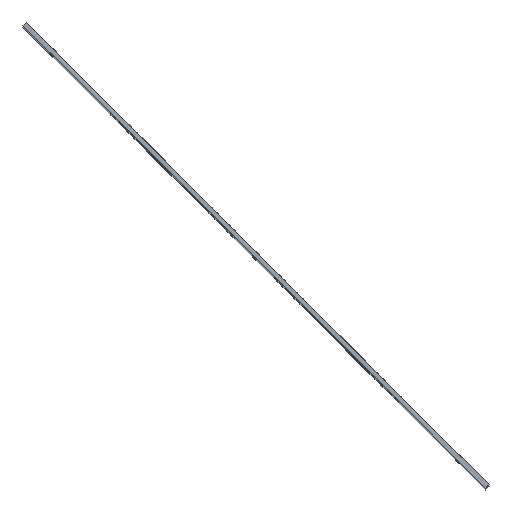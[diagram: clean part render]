
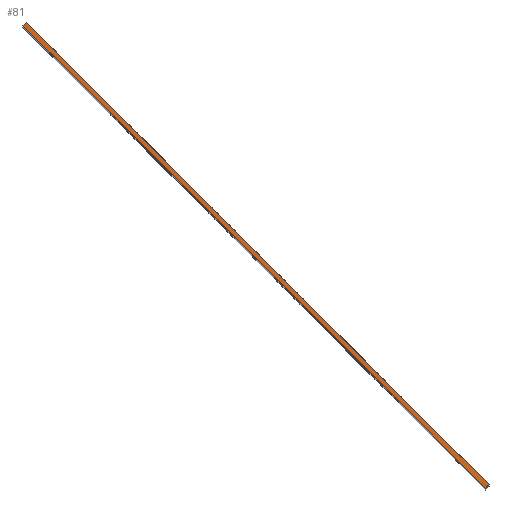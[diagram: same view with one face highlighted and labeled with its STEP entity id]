
A CAD part, top view. The second image highlights one B-rep face of the part: STEP entity #81.
In plain terms, the highlighted planar face has unit normal (0, 0, 1).
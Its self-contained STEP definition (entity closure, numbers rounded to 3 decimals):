
#81=ADVANCED_FACE('',(#523),#525,.T.);
#523=FACE_BOUND('',#524,.T.);
#524=EDGE_LOOP('',(#1159,#1160,#1161,#1162));
#525=PLANE('',#526);
#526=AXIS2_PLACEMENT_3D('',#527,#528,#529);
#527=CARTESIAN_POINT('',(-31.777,258.051,1003.96));
#528=DIRECTION('',(0.,0.,1.));
#529=DIRECTION('',(0.707,-0.707,0.));
#1159=ORIENTED_EDGE('',*,*,#1486,.T.);
#1160=ORIENTED_EDGE('',*,*,#1567,.T.);
#1161=ORIENTED_EDGE('',*,*,#1399,.F.);
#1162=ORIENTED_EDGE('',*,*,#1568,.F.);
#1399=EDGE_CURVE('',#1627,#1628,#1629,.T.);
#1486=EDGE_CURVE('',#1796,#1800,#1802,.T.);
#1567=EDGE_CURVE('',#1800,#1628,#1963,.T.);
#1568=EDGE_CURVE('',#1796,#1627,#1964,.T.);
#1627=VERTEX_POINT('',#2023);
#1628=VERTEX_POINT('',#2024);
#1629=LINE('',#2025,#2026);
#1796=VERTEX_POINT('',#2412);
#1800=VERTEX_POINT('',#2420);
#1802=LINE('',#2424,#2425);
#1963=LINE('',#2799,#2800);
#1964=LINE('',#2802,#2803);
#2023=CARTESIAN_POINT('',(-29.655,260.172,1003.96));
#2024=CARTESIAN_POINT('',(260.172,-29.655,1003.96));
#2025=CARTESIAN_POINT('',(-29.655,260.172,1003.96));
#2026=VECTOR('',#2027,1.);
#2027=DIRECTION('',(0.707,-0.707,0.));
#2412=CARTESIAN_POINT('',(-31.777,258.051,1003.96));
#2420=CARTESIAN_POINT('',(258.051,-31.777,1003.96));
#2424=CARTESIAN_POINT('',(-31.777,258.051,1003.96));
#2425=VECTOR('',#2426,1.);
#2426=DIRECTION('',(0.707,-0.707,0.));
#2799=CARTESIAN_POINT('',(258.051,-31.777,1003.96));
#2800=VECTOR('',#2801,1.);
#2801=DIRECTION('',(0.707,0.707,0.));
#2802=CARTESIAN_POINT('',(-31.777,258.051,1003.96));
#2803=VECTOR('',#2804,1.);
#2804=DIRECTION('',(0.707,0.707,0.));
